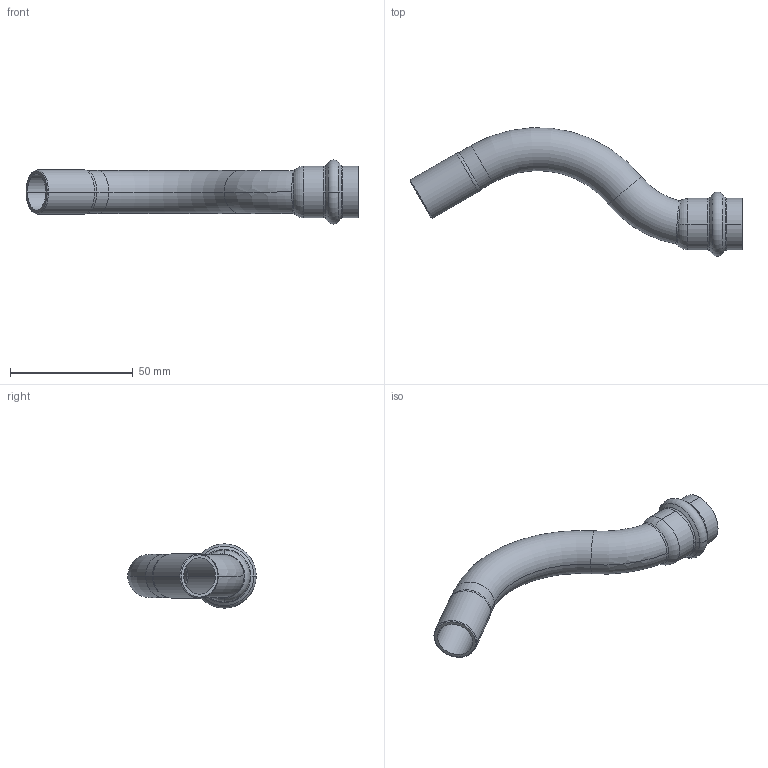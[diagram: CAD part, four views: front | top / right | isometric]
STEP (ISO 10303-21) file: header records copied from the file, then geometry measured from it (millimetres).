
FILE_DESCRIPTION (( 'STEP AP203' ), '1' );
FILE_NAME ('SP5086 Ø18.STEP', '2017-04-24T08:27:31', ( '' ), ( '' ), 'SwSTEP 2.0', 'SolidWorks 2016', '' );
FILE_SCHEMA (( 'CONFIG_CONTROL_DESIGN' ));
Length unit declared in the file: millimetre
Products named in the file (1): SP5086 ﾘ18
Bounding box: 134.98 x 52.22 x 26.1 mm (x, y, z)
Volume: 12113.4 mm3; surface area: 15728.3 mm2
Topology: 1 solids, 1 shells, 60 faces, 130 edges, 72 vertices
Faces by surface type: torus 28, cylinder 16, cone 12, bspline 2, plane 2
Entity records: 2239 total; most frequent: CARTESIAN_POINT 821, DIRECTION 326, ORIENTED_EDGE 260, AXIS2_PLACEMENT_3D 149, EDGE_CURVE 130, CIRCLE 90, VERTEX_POINT 72, EDGE_LOOP 62
